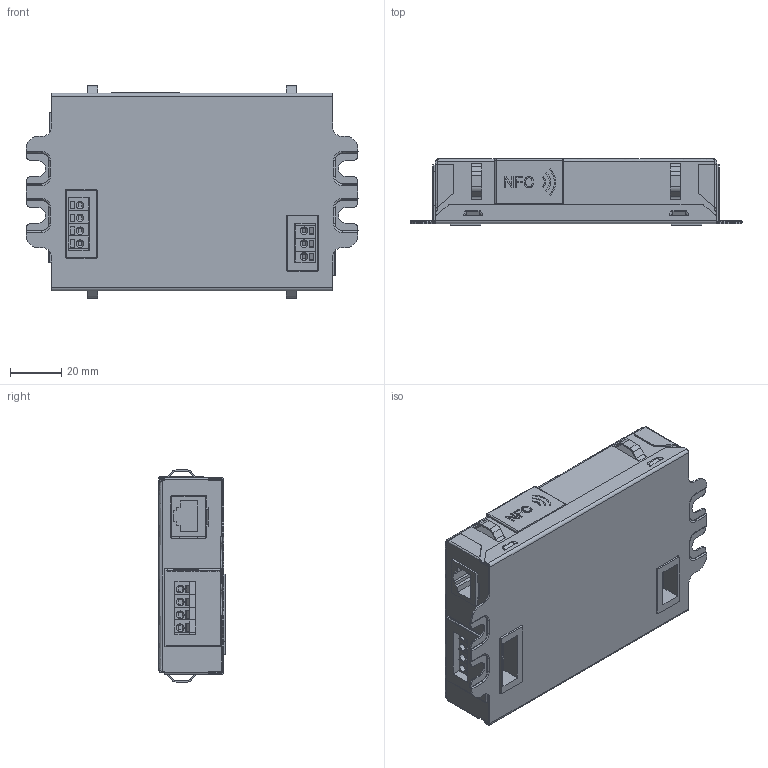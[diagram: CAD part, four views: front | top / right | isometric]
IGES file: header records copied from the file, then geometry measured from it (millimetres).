
Start section: SolidWorks IGES file using analytic representation for surfaces
Global section: file name: C:\Users\jiaqichen\Desktop\New folder\Vesta Flex Driver_Brick (No Stud).IGS; native system: SolidWorks 2020; preprocessor: SolidWorks 2020; author: jiaqichen; date: 200922.181021; units: millimetre
Bounding box: 129 x 25.7 x 82.4 mm (x, y, z)
Volume: 26532.2 mm3; surface area: 69677.6 mm2
Topology: 16 solids, 16 shells, 2082 faces, 5279 edges, 3266 vertices
Faces by surface type: plane 1313, revolution 688, bspline 81
